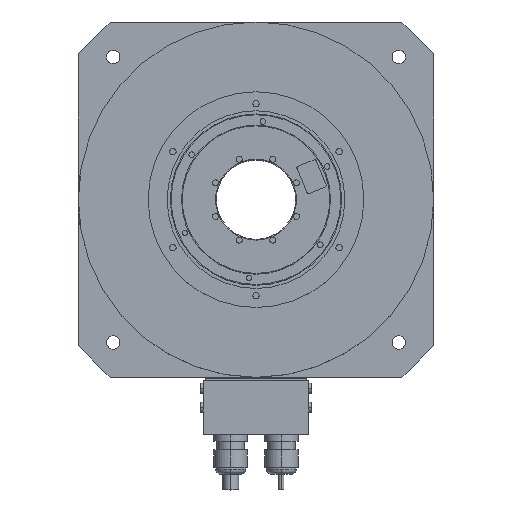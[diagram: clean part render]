
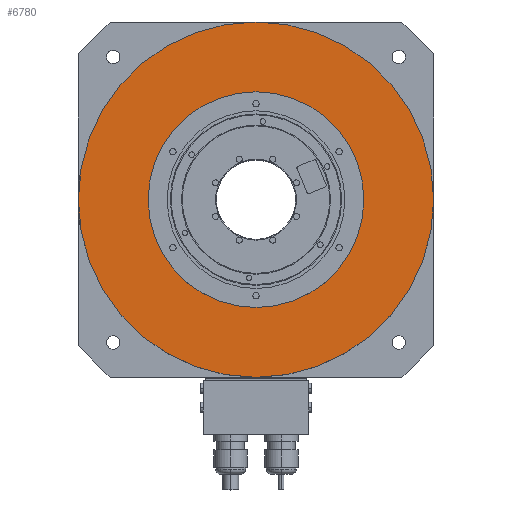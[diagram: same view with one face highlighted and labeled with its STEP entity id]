
A CAD part, top view. The second image highlights one B-rep face of the part: STEP entity #6780.
In plain terms, the highlighted planar face has unit normal (0, 0, 1).
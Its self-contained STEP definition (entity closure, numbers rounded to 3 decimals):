
#1363 = CARTESIAN_POINT ( 'NONE',  ( 68., 0., 39. ) ) ;
#1403 = AXIS2_PLACEMENT_3D ( 'NONE', #1404, #1469, #1468 ) ;
#1404 = CARTESIAN_POINT ( 'NONE',  ( 0., 0., 39. ) ) ;
#1414 = CIRCLE ( 'NONE', #1403, 112. ) ;
#1465 = CARTESIAN_POINT ( 'NONE',  ( 112., 0., 39. ) ) ;
#1468 = DIRECTION ( 'NONE',  ( 1., 0., 0. ) ) ;
#1469 = DIRECTION ( 'NONE',  ( 0., 0., 1. ) ) ;
#1472 = DIRECTION ( 'NONE',  ( 1., 0., 0. ) ) ;
#1473 = DIRECTION ( 'NONE',  ( 0., 0., 1. ) ) ;
#1474 = AXIS2_PLACEMENT_3D ( 'NONE', #1481, #1473, #1472 ) ;
#1481 = CARTESIAN_POINT ( 'NONE',  ( 0., 0., 39. ) ) ;
#1485 = CIRCLE ( 'NONE', #1474, 68. ) ;
#1529 = CARTESIAN_POINT ( 'NONE',  ( -68., 0., 39. ) ) ;
#1531 = CARTESIAN_POINT ( 'NONE',  ( -112., 0., 39. ) ) ;
#2867 = FACE_BOUND ( 'NONE', #6855, .T. ) ;
#2868 = CARTESIAN_POINT ( 'NONE',  ( 0., 0., 39. ) ) ;
#2871 = AXIS2_PLACEMENT_3D ( 'NONE', #2920, #2910, #2909 ) ;
#2880 = PLANE ( 'NONE',  #2871 ) ;
#2892 = DIRECTION ( 'NONE',  ( 1., 0., 0. ) ) ;
#2893 = DIRECTION ( 'NONE',  ( 0., 0., 1. ) ) ;
#2894 = AXIS2_PLACEMENT_3D ( 'NONE', #2900, #2893, #2892 ) ;
#2900 = CARTESIAN_POINT ( 'NONE',  ( 0., 0., 39. ) ) ;
#2904 = DIRECTION ( 'NONE',  ( 1., 0., 0. ) ) ;
#2905 = DIRECTION ( 'NONE',  ( 0., 0., 1. ) ) ;
#2909 = DIRECTION ( 'NONE',  ( -1., 0., 0. ) ) ;
#2910 = DIRECTION ( 'NONE',  ( 0., 0., -1. ) ) ;
#2911 = AXIS2_PLACEMENT_3D ( 'NONE', #2868, #2905, #2904 ) ;
#2912 = CIRCLE ( 'NONE', #2894, 112. ) ;
#2915 = CIRCLE ( 'NONE', #2911, 68. ) ;
#2920 = CARTESIAN_POINT ( 'NONE',  ( 0., -68., 39. ) ) ;
#2921 = FACE_OUTER_BOUND ( 'NONE', #6835, .T. ) ;
#5907 = VERTEX_POINT ( 'NONE', #1363 ) ;
#5948 = EDGE_CURVE ( 'NONE', #5952, #5982, #1414, .T. ) ;
#5952 = VERTEX_POINT ( 'NONE', #1465 ) ;
#5975 = EDGE_CURVE ( 'NONE', #5907, #5980, #1485, .T. ) ;
#5980 = VERTEX_POINT ( 'NONE', #1529 ) ;
#5982 = VERTEX_POINT ( 'NONE', #1531 ) ;
#6780 = ADVANCED_FACE ( 'NONE', ( #2867, #2921 ), #2880, .F. ) ;
#6781 = EDGE_CURVE ( 'NONE', #5980, #5907, #2915, .T. ) ;
#6782 = ORIENTED_EDGE ( 'NONE', *, *, #5975, .F. ) ;
#6787 = EDGE_CURVE ( 'NONE', #5982, #5952, #2912, .T. ) ;
#6834 = ORIENTED_EDGE ( 'NONE', *, *, #6781, .F. ) ;
#6835 = EDGE_LOOP ( 'NONE', ( #6836, #6838 ) ) ;
#6836 = ORIENTED_EDGE ( 'NONE', *, *, #5948, .T. ) ;
#6838 = ORIENTED_EDGE ( 'NONE', *, *, #6787, .T. ) ;
#6855 = EDGE_LOOP ( 'NONE', ( #6782, #6834 ) ) ;
